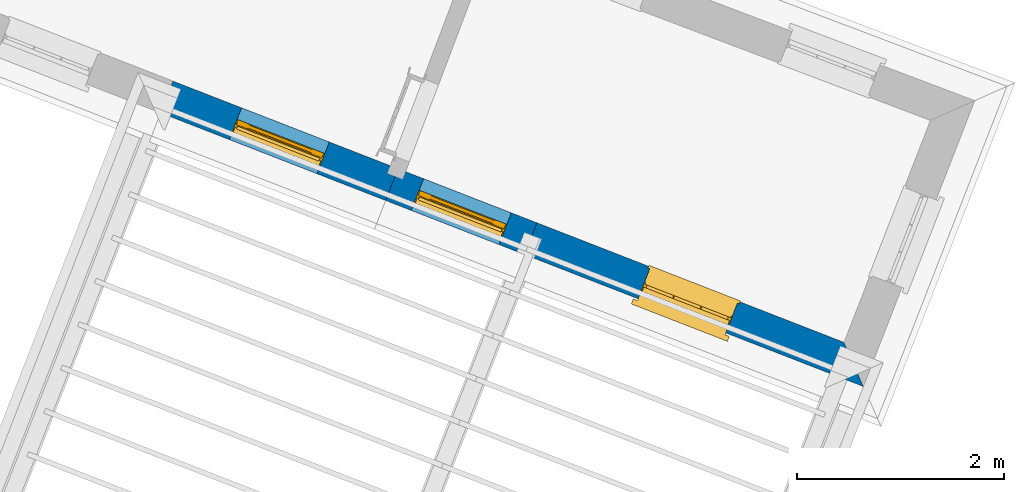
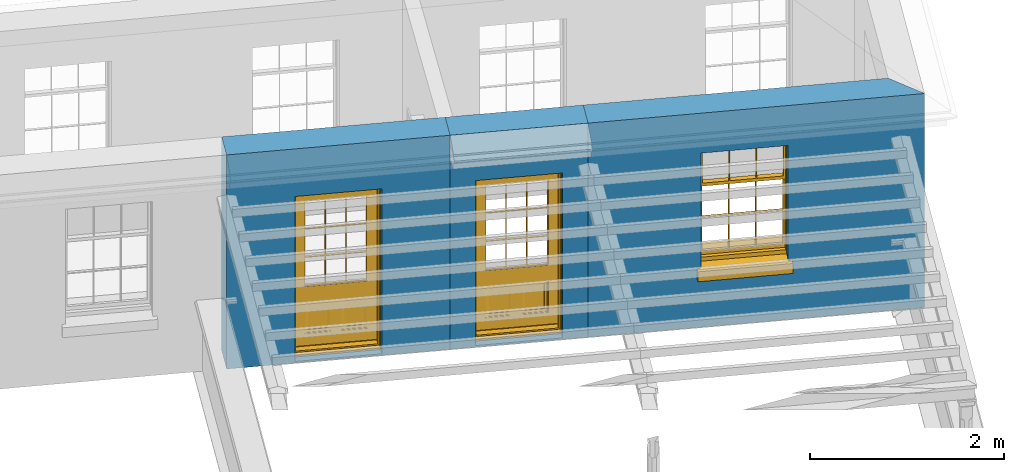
# One storey, part 3 of 5: 3 walls, 2 doors, 1 window, 3 openings.
"""IFC4 building model written with IfcOpenShell, lengths in metres."""

import ifcopenshell
import ifcopenshell.guid

model = None  # the IFC model being written
_history = None  # IfcOwnerHistory: only IFC2X3 demands one
_inside = {}  # id of a spatial element -> (the spatial element, [elements in it])
_under = {}  # id of a project, library or spatial element -> (it, [spatial elements below it])
_declared = {}  # id of a project -> (the project, [libraries it declares])
_typed = {}  # id of a type object -> (the type object, [elements of that type])
_made_of = {}  # id of a material, layer set ... -> (it, [elements and type objects made of it])


def new_model(schema):
    """Start an empty IFC model of exactly this schema.

    Asked for "IFC4X3", IfcOpenShell would pick the latest addendum, in which some entities
    have other attributes; the version numbers below select the first issue.
    IFC2X3 requires an IfcOwnerHistory on every rooted entity: one is made here for all.
    """
    global model, _history
    if schema == "IFC4X3":
        model = ifcopenshell.file(schema_version=(4, 3, 0, 0))
    else:
        model = ifcopenshell.file(schema=schema)
    _inside.clear()
    _under.clear()
    _declared.clear()
    _typed.clear()
    _made_of.clear()
    _history = None
    if model.schema == "IFC2X3":
        org = make("IfcOrganization", Name="unknown")
        user = make(
            "IfcPersonAndOrganization",
            ThePerson=make("IfcPerson", FamilyName="unknown"),
            TheOrganization=org,
        )
        app = make(
            "IfcApplication",
            ApplicationDeveloper=org,
            Version="unknown",
            ApplicationFullName="unknown",
            ApplicationIdentifier="unknown",
        )
        _history = make(
            "IfcOwnerHistory",
            OwningUser=user,
            OwningApplication=app,
            ChangeAction="ADDED",
            CreationDate=0,
        )
    return model


def make(cls, **values):
    """One entity of the class cls with the attributes given. An attribute that is None is left unset."""
    return model.create_entity(
        cls, **{name: value for name, value in values.items() if value is not None}
    )


def rooted(cls, **values):
    """An entity with a GlobalId (a new one), such as an element, a storey or a relation."""
    return make(cls, GlobalId=ifcopenshell.guid.new(), OwnerHistory=_history, **values)


def si_unit(unit_type, name, prefix=None):
    """IfcSIUnit, for example si_unit("LENGTHUNIT", "METRE", prefix="MILLI")."""
    return make("IfcSIUnit", UnitType=unit_type, Prefix=prefix, Name=name)


def assignment(units):
    """IfcUnitAssignment: the units of a project."""
    return None if units is None else make("IfcUnitAssignment", Units=units)


def point(xyz):
    """IfcCartesianPoint."""
    return None if xyz is None else make("IfcCartesianPoint", Coordinates=xyz)


def direction(xyz):
    """IfcDirection."""
    return None if xyz is None else make("IfcDirection", DirectionRatios=xyz)


def frame(location, z_axis=None, x_axis=None):
    """IfcAxis2Placement3D, a coordinate frame: its origin and axes. An axis left out is left unset."""
    return make(
        "IfcAxis2Placement3D",
        Location=point(location),
        Axis=direction(z_axis),
        RefDirection=direction(x_axis),
    )


def origin():
    """The frame at (0, 0, 0) with its axes left unset."""
    return frame((0.0, 0.0, 0.0))


def origin_with_axes():
    """The frame at (0, 0, 0) with the z axis (0, 0, 1) and the x axis (1, 0, 0) written out."""
    return frame((0.0, 0.0, 0.0), z_axis=(0.0, 0.0, 1.0), x_axis=(1.0, 0.0, 0.0))


def place(relative_to, where):
    """IfcLocalPlacement: puts the frame where relative to a parent placement (None: the world)."""
    return make(
        "IfcLocalPlacement", PlacementRelTo=relative_to, RelativePlacement=where
    )


def context(
    kind, dimensions, precision=None, world=None, true_north=None, identifier=None
):
    """IfcGeometricRepresentationContext, for example the 3D "Model" context."""
    return make(
        "IfcGeometricRepresentationContext",
        ContextIdentifier=identifier,
        ContextType=kind,
        CoordinateSpaceDimension=dimensions,
        Precision=precision,
        WorldCoordinateSystem=world,
        TrueNorth=true_north,
    )


def subcontext(parent, identifier, kind, view, scale=None):
    """IfcGeometricRepresentationSubContext, for example "Body" below "Model"."""
    return make(
        "IfcGeometricRepresentationSubContext",
        ContextIdentifier=identifier,
        ContextType=kind,
        ParentContext=parent,
        TargetScale=scale,
        TargetView=view,
    )


def project(units=None, contexts=None):
    """IfcProject with its units and contexts."""
    return rooted(
        "IfcProject",
        Name="project",
        RepresentationContexts=contexts,
        UnitsInContext=assignment(units),
    )


def spatial(cls, under=None, at=None, **own):
    """A site, building, storey or space (cls), placed at a placement, below another one or the project."""
    s = rooted(cls, ObjectPlacement=at, **own)
    if under is not None:
        _under.setdefault(under.id(), (under, []))[1].append(s)
    return s


def polyline(points):
    """IfcPolyline through the points."""
    return make("IfcPolyline", Points=[point(p) for p in points])


def outline(outer, holes=None, kind="AREA"):
    """IfcArbitraryClosedProfileDef: a profile drawn as a closed curve; with holes, ...WithVoids."""
    if holes is None:
        return make("IfcArbitraryClosedProfileDef", ProfileType=kind, OuterCurve=outer)
    return make(
        "IfcArbitraryProfileDefWithVoids",
        ProfileType=kind,
        OuterCurve=outer,
        InnerCurves=holes,
    )


def extrude(swept, where, along, depth):
    """IfcExtrudedAreaSolid: the profile swept, set in the frame where, extruded along a direction by depth."""
    return make(
        "IfcExtrudedAreaSolid",
        SweptArea=swept,
        Position=where,
        ExtrudedDirection=direction(along),
        Depth=depth,
    )


def faces_of(points, faces, orient=None, outer=None):
    """IfcFace entities. A face is a list of loops; a loop is a list of indices into points, from 0.

    orient and outer hold one flag for each loop. By default every Orientation is true, the
    first loop of a face is its IfcFaceOuterBound and the others are IfcFaceBound.
    """
    made = []
    for i, loops in enumerate(faces):
        bounds = []
        for j, loop in enumerate(loops):
            is_outer = j == 0 if outer is None else outer[i][j]
            bounds.append(
                make(
                    "IfcFaceOuterBound" if is_outer else "IfcFaceBound",
                    Bound=make("IfcPolyLoop", Polygon=[points[k] for k in loop]),
                    Orientation=True if orient is None else orient[i][j],
                )
            )
        made.append(make("IfcFace", Bounds=bounds))
    return made


def faceted_brep(points, faces, orient=None, outer=None, voids=None):
    """IfcFacetedBrep: a solid bounded by flat faces; with voids (closed shells), ...WithVoids."""
    shared = [point(p) for p in points]
    hull = make("IfcClosedShell", CfsFaces=faces_of(shared, faces, orient, outer))
    if voids is None:
        return make("IfcFacetedBrep", Outer=hull)
    return make(
        "IfcFacetedBrepWithVoids",
        Outer=hull,
        Voids=[
            make(cls, CfsFaces=faces_of(shared, fs, o, b)) for cls, fs, o, b in voids
        ],
    )


def shape(context_of_items, identifier, shape_type, items):
    """IfcShapeRepresentation: the items that make up one representation, for example the "Body"."""
    return make(
        "IfcShapeRepresentation",
        ContextOfItems=context_of_items,
        RepresentationIdentifier=identifier,
        RepresentationType=shape_type,
        Items=items,
    )


def source(mapping_origin, context_of_items, identifier, shape_type, items):
    """IfcRepresentationMap: a shape defined once, which mapped items show again and again."""
    return make(
        "IfcRepresentationMap",
        MappingOrigin=mapping_origin,
        MappedRepresentation=shape(context_of_items, identifier, shape_type, items),
    )


def transform(
    local_origin,
    x_axis=None,
    y_axis=None,
    z_axis=None,
    scale=None,
    scale2=None,
    scale3=None,
    uniform=True,
):
    """IfcCartesianTransformationOperator3D, or its non-uniform kind. x_axis, y_axis, z_axis: its Axis1, 2, 3."""
    if uniform:
        return make(
            "IfcCartesianTransformationOperator3D",
            Axis1=direction(x_axis),
            Axis2=direction(y_axis),
            LocalOrigin=point(local_origin),
            Scale=scale,
            Axis3=direction(z_axis),
        )
    return make(
        "IfcCartesianTransformationOperator3DnonUniform",
        Axis1=direction(x_axis),
        Axis2=direction(y_axis),
        LocalOrigin=point(local_origin),
        Scale=scale,
        Axis3=direction(z_axis),
        Scale2=scale2,
        Scale3=scale3,
    )


def mapped(mapping_source, mapping_target):
    """IfcMappedItem: shows the shape of a source again, moved by a transform."""
    return make(
        "IfcMappedItem", MappingSource=mapping_source, MappingTarget=mapping_target
    )


def material(Name=None, Category=None):
    """IfcMaterial."""
    return make("IfcMaterial", Name=Name, Category=Category)


def layer(
    of_material, thickness, ventilated=None, Name=None, Category=None, Priority=None
):
    """IfcMaterialLayer: one layer of a wall or slab, of a material (None: an air gap)."""
    return make(
        "IfcMaterialLayer",
        Material=of_material,
        LayerThickness=thickness,
        IsVentilated=ventilated,
        Name=Name,
        Category=Category,
        Priority=Priority,
    )


def layer_set(layers, Name=None):
    """IfcMaterialLayerSet."""
    return make("IfcMaterialLayerSet", MaterialLayers=layers, LayerSetName=Name)


def layer_usage(for_layer_set, set_direction, sense, offset, extent=None):
    """IfcMaterialLayerSetUsage: how a layer set lies in its element."""
    return make(
        "IfcMaterialLayerSetUsage",
        ForLayerSet=for_layer_set,
        LayerSetDirection=set_direction,
        DirectionSense=sense,
        OffsetFromReferenceLine=offset,
        ReferenceExtent=extent,
    )


def made_of(thing, what):
    """Note that an element or type object is made of a material, layer set ...; save() writes the relation."""
    if what is not None:
        _made_of.setdefault(what.id(), (what, []))[1].append(thing)
    return thing


def type_object(cls, material=None, **own):
    """A type object (cls), such as IfcWallType, which elements share."""
    return made_of(rooted(cls, **own), material)


def type_shapes(of_type, sources):
    """Give a type object the sources (RepresentationMaps) that its elements show as mapped items."""
    of_type.RepresentationMaps = sources


def element(
    cls,
    number,
    at=None,
    inside=None,
    cuts=None,
    type_object=None,
    material=None,
    context=None,
    identifier="Body",
    shape_type=None,
    held_by="IfcProductDefinitionShape",
    body=None,
    shapes=None,
    **own,
):
    """One element of the class cls, such as IfcWall. Its Tag is "e" and its number.

    at: its placement. inside: the storey or other place that contains it. cuts: it is an
    opening in that element (IfcRelVoidsElement). A single representation is given by context,
    identifier, shape_type and body (its items); several are given by shapes. held_by: the class
    of the entity that holds the representations. save() writes the other relations.
    """
    e = rooted(cls, Tag="e%d" % number, ObjectPlacement=at, **own)
    if body is not None:
        shapes = [shape(context, identifier, shape_type, body)]
    if shapes is not None:
        e.Representation = make(held_by, Representations=shapes)
    if inside is not None:
        _inside.setdefault(inside.id(), (inside, []))[1].append(e)
    if cuts is not None:
        rooted(
            "IfcRelVoidsElement", RelatingBuildingElement=cuts, RelatedOpeningElement=e
        )
    if type_object is not None:
        _typed.setdefault(type_object.id(), (type_object, []))[1].append(e)
    return made_of(e, material)


def fill(opening, filler):
    """IfcRelFillsElement: the door or window that sits in an opening."""
    return rooted(
        "IfcRelFillsElement",
        RelatingOpeningElement=opening,
        RelatedBuildingElement=filler,
    )


def aggregate(whole, parts):
    """IfcRelAggregates: a whole, such as a stair, and the parts it consists of."""
    return rooted("IfcRelAggregates", RelatingObject=whole, RelatedObjects=parts)


def save(model, path):
    """Write the relations noted so far, then the file.

    IfcRelAggregates (storeys below a building ...), IfcRelContainedInSpatialStructure (elements
    in a storey), IfcRelDefinesByType, IfcRelAssociatesMaterial and IfcRelDeclares: one each for
    every whole, place, type object, material and project.
    """
    for whole, parts in _under.values():
        aggregate(whole, parts)
    for where, things in _inside.values():
        rooted(
            "IfcRelContainedInSpatialStructure",
            RelatedElements=things,
            RelatingStructure=where,
        )
    for kind, things in _typed.values():
        rooted("IfcRelDefinesByType", RelatedObjects=things, RelatingType=kind)
    for what, things in _made_of.values():
        rooted("IfcRelAssociatesMaterial", RelatedObjects=things, RelatingMaterial=what)
    for by, libraries in _declared.values():
        rooted("IfcRelDeclares", RelatingContext=by, RelatedDefinitions=libraries)
    model.write(path)


model = new_model("IFC4")

# Units and contexts
model_context = context("Model", 3, world=origin_with_axes())
body_context = subcontext(model_context, "Body", "Model", "MODEL_VIEW")
ifc_project = project(units=[si_unit("PLANEANGLEUNIT", "RADIAN"), si_unit("MASSUNIT", "GRAM", prefix="KILO"), si_unit("FORCEUNIT", "NEWTON", prefix="KILO"), si_unit("LENGTHUNIT", "METRE"), si_unit("AREAUNIT", "SQUARE_METRE"), si_unit("VOLUMEUNIT", "CUBIC_METRE")], contexts=[model_context, model_context])

# Sites, building, storey
site_1_placement = place(None, origin_with_axes())
site_1 = spatial("IfcSite", under=ifc_project, at=site_1_placement, Name="Tamar")
site_2_placement = place(site_1_placement, origin_with_axes())
site_2 = spatial("IfcSite", under=site_1, at=site_2_placement, Name="Site plot-8", CompositionType="ELEMENT")
building_placement = place(None, origin_with_axes())
building = spatial("IfcBuilding", under=site_2, at=building_placement, Name="Building plot-8", CompositionType="ELEMENT")
storey_placement = place(None, frame((0.0, 0.0, 31.55), z_axis=(0.0, 0.0, 1.0), x_axis=(1.0, 0.0, 0.0)))
storey = spatial("IfcBuildingStorey", under=building, at=storey_placement, Name="plot-8 2", CompositionType="ELEMENT", Elevation=31.55)

# Wall, opening, door
ifc_material = material(Name="Masonry")
ifc_layer = layer(ifc_material, 0.33, ventilated=False)
ifc_layer_set = layer_set([ifc_layer], Name="exterior_0.08_0.25")
ifc_layer_usage = layer_usage(ifc_layer_set, "AXIS2", "POSITIVE", -0.25)
wall_type = type_object("IfcWallType", Name="exterior_0.08_0.25", PredefinedType="SOLIDWALL", material=ifc_layer_set)
wall_1_placement = place(storey_placement, frame((223.979982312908, 309.32457709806, 0.0), z_axis=(0.0, 0.0, 1.0), x_axis=(0.931863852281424, -0.362808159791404, 0.0)))
wall_1 = element("IfcWall", 1, at=wall_1_placement, inside=storey, type_object=wall_type, material=ifc_layer_usage, Name="exterior", context=body_context, shape_type="SweptSolid", body=[
    extrude(outline(polyline([(2.24758126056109e-14, 0.0800000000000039), (-7.68733575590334e-14, -0.250000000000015), (2.3357407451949, -0.249999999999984), (2.3357407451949, 0.0799999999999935), (2.24758126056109e-14, 0.0800000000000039)])), origin_with_axes(), (0.0, 0.0, 1.0), 2.7),
])
opening_1_placement = place(wall_1_placement, frame((0.712870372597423, 0.0, 0.0199999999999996)))
opening_1 = element("IfcOpeningElement", 2, at=opening_1_placement, cuts=wall_1, Name="My Opening", ObjectType="Opening", context=body_context, shape_type="SweptSolid", body=[
    extrude(outline(polyline([(0.0, -0.269999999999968), (0.910000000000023, -0.270000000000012), (0.910000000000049, 1.09999999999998), (2.67563748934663e-14, 1.10000000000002), (0.0, -0.269999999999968)])), origin_with_axes(), (0.0, 0.0, 1.0), 2.08),
])
door_type = type_object("IfcDoorType", Name="door_panelled", OperationType="SINGLE_SWING_LEFT", PredefinedType="NOTDEFINED")
shared_shape_1 = source(origin(), body_context, "Body", "Brep", [
    faceted_brep([(0.545, 0.195, 0.265), (0.745, 0.195, 0.265), (0.745, 0.2, 0.265), (0.545, 0.2, 0.265), (0.745, 0.2, 0.58), (0.545, 0.2, 0.58), (0.545, 0.195, 0.58), (0.515, 0.19, 0.235), (0.775, 0.19, 0.235), (0.745, 0.195, 0.58), (0.515, 0.19, 0.61), (0.515, 0.185, 0.235), (0.775, 0.185, 0.235), (0.775, 0.19, 0.61), (0.515, 0.185, 0.61), (0.785, 0.185, 0.225), (0.505, 0.185, 0.225), (0.775, 0.185, 0.61), (0.505, 0.185, 0.62), (0.785, 0.185, 0.62), (0.505, 0.18, 0.225), (0.785, 0.18, 0.225), (0.505, 0.18, 0.62), (0.785, 0.18, 0.62), (0.883, 0.18, 0.075), (0.898, 0.18, 0.075), (0.405, 0.18, 0.62), (0.405, 0.18, 0.225), (0.027, 0.18, 0.075), (0.785, 0.18, 0.82), (0.125, 0.18, 0.82), (0.405, 0.185, 0.62), (0.405, 0.185, 0.225), (0.898, 0.18, 2.068), (0.027, 0.17, 0.075), (0.883, 0.17, 0.075), (0.125, 0.18, 0.225), (0.012, 0.18, 0.075), (0.785, 0.19, 0.82), (0.125, 0.19, 0.82), (0.125, 0.18, 0.62), (0.125, 0.185, 0.62), (0.395, 0.185, 0.61), (0.395, 0.185, 0.235), (0.125, 0.185, 0.225), (0.785, 0.18, 1.895), (0.027, 0.14, 0.045), (0.883, 0.14, 0.045), (0.558333, 0.19, 0.83), (0.351667, 0.19, 0.83), (0.125, 0.18, 1.895), (0.125, 0.19, 1.895), (0.785, 0.19, 1.895), (0.012, 0.18, 2.068), (0.135, 0.185, 0.61), (0.395, 0.19, 0.61), (0.395, 0.19, 0.235), (0.135, 0.185, 0.235), (0.027, 0.14, 0.027), (0.883, 0.14, 0.027), (0.568333, 0.19, 0.83), (0.558333, 0.22, 0.83), (0.351667, 0.22, 0.83), (0.341667, 0.19, 0.83), (0.135, 0.19, 1.185), (0.135, 0.19, 1.53), (0.775, 0.19, 1.53), (0.775, 0.19, 1.185), (0.135, 0.19, 0.61), (0.365, 0.195, 0.58), (0.365, 0.195, 0.265), (0.135, 0.19, 0.235), (0.568333, 0.19, 1.175), (0.558333, 0.19, 1.175), (0.775, 0.19, 0.83), (0.558333, 0.22, 1.175), (0.785, 0.22, 0.82), (0.125, 0.22, 0.82), (0.351667, 0.22, 1.175), (0.351667, 0.19, 1.175), (0.341667, 0.19, 1.175), (0.135, 0.19, 0.83), (0.135, 0.19, 1.175), (0.135, 0.22, 1.185), (0.135, 0.22, 1.53), (0.135, 0.19, 1.54), (0.351667, 0.19, 1.885), (0.558333, 0.19, 1.885), (0.775, 0.22, 1.53), (0.775, 0.22, 1.185), (0.775, 0.19, 1.175), (0.775, 0.19, 1.54), (0.165, 0.195, 0.58), (0.365, 0.2, 0.58), (0.365, 0.2, 0.265), (0.165, 0.195, 0.265), (0.568333, 0.22, 0.83), (0.568333, 0.22, 1.175), (0.568333, 0.19, 1.185), (0.558333, 0.19, 1.185), (0.775, 0.22, 0.83), (0.785, 0.23, 0.82), (0.125, 0.23, 0.82), (0.341667, 0.22, 0.83), (0.341667, 0.22, 1.175), (0.351667, 0.19, 1.185), (0.341667, 0.19, 1.185), (0.135, 0.22, 0.83), (0.341667, 0.22, 1.185), (0.125, 0.22, 1.895), (0.341667, 0.22, 1.53), (0.341667, 0.19, 1.53), (0.135, 0.19, 1.885), (0.341667, 0.19, 1.54), (0.341667, 0.19, 1.885), (0.558333, 0.22, 1.885), (0.351667, 0.22, 1.885), (0.568333, 0.19, 1.885), (0.785, 0.22, 1.895), (0.568333, 0.22, 1.185), (0.568333, 0.19, 1.53), (0.568333, 0.22, 1.53), (0.568333, 0.19, 1.54), (0.775, 0.19, 1.885), (0.165, 0.2, 0.58), (0.165, 0.2, 0.265), (0.775, 0.22, 1.175), (0.558333, 0.19, 1.53), (0.351667, 0.22, 1.185), (0.558333, 0.22, 1.185), (0.505, 0.23, 0.62), (0.405, 0.23, 0.62), (0.125, 0.23, 1.895), (0.785, 0.23, 1.895), (0.351667, 0.19, 1.53), (0.135, 0.22, 1.175), (0.135, 0.22, 1.54), (0.341667, 0.22, 1.54), (0.135, 0.22, 1.885), (0.351667, 0.19, 1.54), (0.558333, 0.22, 1.54), (0.558333, 0.19, 1.54), (0.351667, 0.22, 1.54), (0.775, 0.22, 1.54), (0.568333, 0.22, 1.54), (0.775, 0.22, 1.885), (0.558333, 0.22, 1.53), (0.405, 0.23, 0.225), (0.505, 0.23, 0.225), (0.125, 0.23, 0.62), (0.785, 0.23, 0.62), (0.012, 0.23, 2.068), (0.898, 0.23, 2.068), (0.351667, 0.22, 1.53), (0.341667, 0.22, 1.885), (0.568333, 0.22, 1.885), (0.405, 0.225, 0.225), (0.405, 0.225, 0.62), (0.505, 0.225, 0.62), (0.505, 0.225, 0.225), (0.898, 0.23, 0.027), (0.012, 0.23, 0.027), (0.125, 0.225, 0.62), (0.785, 0.225, 0.62), (0.395, 0.225, 0.235), (0.395, 0.225, 0.61), (0.125, 0.23, 0.225), (0.125, 0.225, 0.225), (0.515, 0.225, 0.61), (0.515, 0.225, 0.235), (0.785, 0.23, 0.225), (0.785, 0.225, 0.225), (0.135, 0.225, 0.61), (0.775, 0.225, 0.61), (0.135, 0.225, 0.235), (0.395, 0.22, 0.235), (0.395, 0.22, 0.61), (0.515, 0.22, 0.61), (0.515, 0.22, 0.235), (0.775, 0.225, 0.235), (0.135, 0.22, 0.61), (0.775, 0.22, 0.61), (0.135, 0.22, 0.235), (0.365, 0.215, 0.265), (0.365, 0.215, 0.58), (0.545, 0.215, 0.58), (0.545, 0.215, 0.265), (0.775, 0.22, 0.235), (0.165, 0.215, 0.58), (0.745, 0.215, 0.58), (0.165, 0.215, 0.265), (0.365, 0.21, 0.58), (0.365, 0.21, 0.265), (0.545, 0.21, 0.58), (0.545, 0.21, 0.265), (0.745, 0.215, 0.265), (0.165, 0.21, 0.58), (0.745, 0.21, 0.58), (0.165, 0.21, 0.265), (0.745, 0.21, 0.265), (0.885, 0.178, 0.025), (0.025, 0.178, 0.025), (0.025, 0.15, 0.025), (0.885, 0.15, 0.025), (0.9, 0.23, 0.025), (0.01, 0.23, 0.025), (0.9, 0.178, 0.025), (0.91, 0.23, 0.0), (0.0, 0.23, 0.0), (0.01, 0.178, 0.025), (0.9, 0.178, 2.07), (0.9, 0.23, 2.07), (0.885, 0.178, 2.055), (0.91, 0.23, 2.08), (0.01, 0.23, 2.07), (0.0, 0.23, 2.08), (0.01, 0.178, 2.07), (0.025, 0.178, 2.055), (0.0, 0.1, 2.08), (0.91, 0.1, 2.08), (0.01, 0.1, 2.07), (0.9, 0.1, 2.07), (0.01, 0.15, 2.07), (0.9, 0.15, 2.07), (0.0, 0.1, 0.0), (0.91, 0.1, 0.0), (0.01, 0.1, 0.025), (0.9, 0.1, 0.025), (0.01, 0.15, 0.025), (0.025, 0.15, 2.055), (0.9, 0.15, 0.025), (0.885, 0.15, 2.055), (0.898, 0.18, 0.027), (0.012, 0.18, 0.027), (0.883, 0.18, 0.027), (0.027, 0.18, 0.027)], [[[0, 1, 2, 3]], [[2, 4, 5, 3]], [[0, 3, 5, 6]], [[1, 0, 7, 8]], [[9, 4, 2, 1]], [[9, 6, 5, 4]], [[0, 6, 10, 7]], [[8, 7, 11, 12]], [[8, 13, 9, 1]], [[13, 10, 6, 9]], [[7, 10, 14, 11]], [[15, 12, 11, 16]], [[12, 17, 13, 8]], [[17, 14, 10, 13]], [[18, 16, 11, 14]], [[15, 19, 17, 12]], [[15, 16, 20, 21]], [[14, 17, 19, 18]], [[16, 18, 22, 20]], [[21, 23, 19, 15]], [[24, 25, 21, 20]], [[23, 22, 18, 19]], [[20, 22, 26, 27]], [[23, 21, 25]], [[28, 24, 20, 27]], [[22, 23, 29]], [[29, 30, 26, 22]], [[27, 26, 31, 32]], [[23, 25, 33, 29]], [[34, 35, 24, 28]], [[28, 27, 36, 37]], [[38, 39, 30, 29]], [[26, 30, 40]], [[26, 40, 41, 31]], [[42, 43, 32, 31]], [[32, 44, 36, 27]], [[33, 45, 29]], [[46, 47, 35, 34]], [[36, 40, 37]], [[39, 38, 48, 49]], [[50, 30, 39, 51]], [[29, 45, 52, 38]], [[53, 37, 40, 30]], [[44, 41, 40, 36]], [[31, 41, 54, 42]], [[43, 42, 55, 56]], [[57, 44, 32, 43]], [[50, 45, 33, 53]], [[47, 46, 58, 59]], [[60, 48, 38]], [[49, 48, 61, 62]], [[49, 63, 39]], [[50, 53, 30]], [[51, 39, 64, 65]], [[45, 50, 51, 52]], [[66, 67, 38, 52]], [[57, 54, 41, 44]], [[42, 54, 68, 55]], [[56, 55, 69, 70]], [[56, 71, 57, 43]], [[60, 72, 73, 48]], [[60, 38, 74]], [[48, 73, 75, 61]], [[76, 77, 62, 61]], [[62, 78, 79, 49]], [[49, 79, 80, 63]], [[63, 81, 39]], [[82, 64, 39]], [[65, 64, 83, 84]], [[85, 51, 65]], [[52, 51, 86, 87]], [[88, 89, 67, 66]], [[90, 38, 67]], [[91, 66, 52]], [[71, 68, 54, 57]], [[55, 68, 92, 69]], [[69, 93, 94, 70]], [[70, 95, 71, 56]], [[96, 97, 72, 60]], [[73, 72, 98, 99]], [[74, 38, 90]], [[100, 96, 60, 74]], [[75, 73, 79, 78]], [[61, 75, 97, 96]], [[101, 102, 77, 76]], [[77, 103, 62]], [[96, 76, 61]], [[103, 104, 78, 62]], [[80, 79, 105, 106]], [[63, 80, 104, 103]], [[81, 63, 103, 107]], [[81, 82, 39]], [[106, 64, 82, 80]], [[106, 108, 83, 64]], [[84, 83, 77, 109]], [[110, 111, 65, 84]], [[112, 51, 85]], [[113, 85, 65, 111]], [[114, 86, 51]], [[115, 87, 86, 116]], [[117, 52, 87]], [[118, 76, 89, 88]], [[119, 98, 67, 89]], [[120, 121, 88, 66]], [[67, 98, 72, 90]], [[91, 122, 120, 66]], [[91, 52, 123]], [[95, 92, 68, 71]], [[69, 92, 124, 93]], [[94, 93, 124, 125]], [[94, 125, 95, 70]], [[72, 97, 126, 90]], [[127, 99, 98, 120]], [[99, 105, 79, 73]], [[74, 90, 126, 100]], [[96, 100, 76]], [[128, 129, 75, 78]], [[97, 75, 129, 119]], [[130, 131, 102, 101]], [[109, 77, 102, 132]], [[133, 101, 76, 118]], [[77, 107, 103]], [[78, 104, 108, 128]], [[111, 106, 105, 134]], [[104, 80, 82, 135]], [[107, 135, 82, 81]], [[110, 108, 106, 111]], [[104, 135, 83, 108]], [[83, 135, 77]], [[136, 84, 109]], [[110, 84, 136, 137]], [[114, 51, 112]], [[85, 136, 138, 112]], [[113, 137, 136, 85]], [[111, 134, 139, 113]], [[86, 114, 113, 139]], [[140, 141, 87, 115]], [[139, 142, 116, 86]], [[109, 118, 115, 116]], [[117, 123, 52]], [[117, 87, 141, 122]], [[126, 89, 76]], [[143, 118, 88]], [[120, 98, 119, 121]], [[119, 89, 126, 97]], [[144, 143, 88, 121]], [[144, 122, 91, 143]], [[127, 120, 122, 141]], [[143, 91, 123, 145]], [[124, 92, 95, 125]], [[146, 129, 99, 127]], [[99, 129, 128, 105]], [[100, 126, 76]], [[121, 119, 129, 146]], [[147, 131, 130, 148]], [[131, 149, 102]], [[130, 101, 150]], [[102, 151, 132]], [[118, 109, 132, 133]], [[101, 133, 152]], [[107, 77, 135]], [[153, 128, 108, 110]], [[134, 105, 128, 153]], [[109, 138, 136]], [[153, 110, 137, 142]], [[154, 114, 112, 138]], [[137, 113, 114, 154]], [[141, 139, 134, 127]], [[141, 140, 142, 139]], [[144, 140, 115, 155]], [[142, 137, 154, 116]], [[155, 115, 118]], [[116, 154, 109]], [[117, 155, 145, 123]], [[122, 144, 155, 117]], [[143, 145, 118]], [[121, 146, 140, 144]], [[146, 127, 134, 153]], [[156, 157, 131, 147]], [[148, 130, 158, 159]], [[148, 160, 161, 147]], [[157, 162, 149, 131]], [[161, 151, 102, 149]], [[101, 152, 160, 150]], [[163, 158, 130, 150]], [[151, 152, 133, 132]], [[154, 138, 109]], [[142, 140, 146, 153]], [[145, 155, 118]], [[157, 156, 164, 165]], [[147, 166, 167, 156]], [[168, 169, 159, 158]], [[170, 148, 159, 171]], [[148, 170, 160]], [[166, 147, 161]], [[172, 162, 157, 165]], [[166, 149, 162, 167]], [[166, 161, 149]], [[150, 160, 170]], [[163, 173, 168, 158]], [[171, 163, 150, 170]], [[174, 164, 156, 167]], [[175, 176, 165, 164]], [[169, 168, 177, 178]], [[171, 159, 169, 179]], [[167, 162, 172, 174]], [[176, 180, 172, 165]], [[179, 173, 163, 171]], [[181, 177, 168, 173]], [[164, 174, 182, 175]], [[183, 184, 176, 175]], [[178, 177, 185, 186]], [[179, 169, 178, 187]], [[174, 172, 180, 182]], [[184, 188, 180, 176]], [[187, 181, 173, 179]], [[189, 185, 177, 181]], [[175, 182, 190, 183]], [[191, 184, 183, 192]], [[185, 193, 194, 186]], [[187, 178, 186, 195]], [[182, 180, 188, 190]], [[191, 196, 188, 184]], [[195, 189, 181, 187]], [[197, 193, 185, 189]], [[183, 190, 198, 192]], [[198, 196, 191, 192]], [[194, 193, 197, 199]], [[195, 186, 194, 199]], [[188, 196, 198, 190]], [[197, 189, 195, 199]], [[200, 201, 202, 203]], [[201, 200, 204, 205]], [[206, 204, 200]], [[204, 207, 208, 205]], [[209, 201, 205]], [[210, 211, 204, 206]], [[206, 200, 212, 210]], [[211, 213, 207, 204]], [[214, 205, 208, 215]], [[216, 217, 201, 209]], [[205, 214, 216, 209]], [[216, 214, 211, 210]], [[210, 212, 217, 216]], [[214, 215, 213, 211]], [[218, 219, 213, 215]], [[219, 218, 220, 221]], [[221, 220, 222, 223]], [[215, 208, 224, 218]], [[225, 224, 208, 207]], [[224, 226, 220, 218]], [[224, 225, 227, 226]], [[219, 225, 207, 213]], [[228, 222, 220, 226]], [[219, 221, 227, 225]], [[226, 227, 203, 202]], [[202, 229, 222, 228]], [[228, 226, 202]], [[227, 221, 223, 230]], [[230, 203, 227]], [[217, 229, 202, 201]], [[231, 223, 222, 229]], [[230, 223, 231, 203]], [[231, 229, 217, 212]], [[212, 200, 203, 231]], [[33, 152, 151, 53]], [[25, 160, 152, 33]], [[161, 37, 53, 151]], [[232, 160, 25]], [[161, 233, 37]], [[160, 232, 234]], [[24, 234, 232, 25]], [[233, 161, 235]], [[37, 233, 235, 28]], [[161, 160, 234, 235]], [[35, 47, 234, 24]], [[28, 235, 46, 34]], [[58, 235, 234, 59]], [[59, 234, 47]], [[58, 46, 235]]]),
])
type_shapes(door_type, [shared_shape_1])
door_1_placement = place(storey_placement, frame((224.54632224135, 308.814338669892, 0.0199999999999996), z_axis=(0.0, 0.0, 1.0), x_axis=(0.847996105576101, -0.330155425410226, 0.0)))
door_1 = element("IfcDoor", 3, at=door_1_placement, inside=storey, type_object=door_type, Name="bedroom outside door", OverallHeight=2.08, OverallWidth=0.91, context=body_context, shape_type="MappedRepresentation", body=[
    mapped(shared_shape_1, transform((0.0, 0.0, 0.0), scale=1.0)),
])
fill(opening_1, door_1)

wall_2_placement = place(storey_placement, frame((226.156574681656, 308.477151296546, 0.0), z_axis=(0.0, 0.0, 1.0), x_axis=(0.931863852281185, -0.362808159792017, 0.0)))
wall_2 = element("IfcWall", 4, at=wall_2_placement, inside=storey, type_object=wall_type, material=ifc_layer_usage, Name="exterior", context=body_context, shape_type="SweptSolid", body=[
    extrude(outline(polyline([(-5.66786481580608e-14, 0.0799999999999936), (1.6715366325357e-13, -0.249999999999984), (1.44228726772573, -0.249999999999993), (1.44228726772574, 0.0800000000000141), (-5.66786481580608e-14, 0.0799999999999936)])), origin_with_axes(), (0.0, 0.0, 1.0), 2.7),
])
opening_2_placement = place(wall_2_placement, frame((0.266143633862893, 0.0, 0.0199999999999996)))
opening_2 = element("IfcOpeningElement", 5, at=opening_2_placement, cuts=wall_2, Name="My Opening", ObjectType="Opening", context=body_context, shape_type="SweptSolid", body=[
    extrude(outline(polyline([(0.0, -0.270000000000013), (0.909999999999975, -0.269999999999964), (0.909999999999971, 1.10000000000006), (-4.05231403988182e-15, 1.10000000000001), (0.0, -0.270000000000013)])), origin_with_axes(), (0.0, 0.0, 1.0), 2.08),
])
door_2_placement = place(storey_placement, frame((226.306626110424, 308.128988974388, 0.0199999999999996), z_axis=(0.0, 0.0, 1.0), x_axis=(0.847996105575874, -0.33015542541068, 0.0)))
door_2 = element("IfcDoor", 6, at=door_2_placement, inside=storey, type_object=door_type, Name="circulation outside door", OverallHeight=2.08, OverallWidth=0.91, context=body_context, shape_type="MappedRepresentation", body=[
    mapped(shared_shape_1, transform((0.0, 0.0, 0.0), scale=1.0)),
])
fill(opening_2, door_2)

# Wall, opening, window
wall_3_placement = place(storey_placement, frame((227.500590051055, 307.953877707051, 0.0), z_axis=(0.0, 0.0, 1.0), x_axis=(0.931863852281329, -0.362808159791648, 0.0)))
wall_3 = element("IfcWall", 7, at=wall_3_placement, inside=storey, type_object=wall_type, material=ifc_layer_usage, Name="exterior", context=body_context, shape_type="SweptSolid", body=[
    extrude(outline(polyline([(2.79825188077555e-14, 0.0800000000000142), (-1.1151231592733e-13, -0.249999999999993), (3.51698581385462, -0.250000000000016), (3.18698581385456, 0.079999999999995), (2.79825188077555e-14, 0.0800000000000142)])), origin_with_axes(), (0.0, 0.0, 1.0), 2.7),
])
opening_3_placement = place(wall_3_placement, frame((1.17849290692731, 0.0, 0.749999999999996)))
opening_3 = element("IfcOpeningElement", 8, at=opening_3_placement, cuts=wall_3, Name="My Opening", ObjectType="Opening", context=body_context, shape_type="SweptSolid", body=[
    extrude(outline(polyline([(0.0, -0.270000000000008), (0.909999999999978, -0.270000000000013), (0.909999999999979, 1.09999999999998), (2.22044604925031e-16, 1.09999999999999), (0.0, -0.270000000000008)])), origin_with_axes(), (0.0, 0.0, 1.0), 1.445),
])
window_type = type_object("IfcWindowType", Name="sash_shorter", PartitioningType="DOUBLE_PANEL_HORIZONTAL", PredefinedType="NOTDEFINED")
shared_shape_2 = source(origin(), body_context, "Body", "Brep", [
    faceted_brep([(0.876875, 0.145, 0.999097), (0.876875, 0.145, 1.411875), (0.9, 0.145, 1.435), (0.033125, 0.145, 1.411875), (0.033125, 0.145, 0.999097), (0.01, 0.145, 1.435), (0.033125, 0.115, 1.411875), (0.01, 0.115, 1.435), (0.033125, 0.115, 0.999097), (0.876875, 0.115, 1.411875), (0.876875, 0.115, 0.999097), (0.9, 0.115, 1.435), (0.033125, 0.145, 0.960972), (0.01, 0.145, 0.960972), (0.033125, 0.145, 0.548195), (0.876875, 0.145, 0.960972), (0.876875, 0.145, 0.548195), (0.9, 0.145, 0.960972), (0.876875, 0.145, 0.538195), (0.876875, 0.145, 0.125417), (0.9, 0.145, 0.077167), (0.033125, 0.145, 0.125417), (0.033125, 0.145, 0.538195), (0.01, 0.145, 0.077167), (0.9, 0.115, 0.960972), (0.01, 0.115, 0.960972), (-0.0425, 0.0, 0.01), (-0.0425, -0.05, 0.001667), (0.0, 0.0, 0.01), (0.9525, 0.0, 0.01), (0.91, 0.0, 0.01), (0.9525, -0.05, 0.001667), (-0.02, 0.33, 0.077167), (0.0, 0.33, 0.077167), (-0.02, 0.36, 0.077167), (0.0, 0.19, 0.077167), (0.01, 0.19, 0.077167), (0.91, 0.19, 0.077167), (0.91, 0.33, 0.077167), (0.9, 0.19, 0.077167), (0.93, 0.33, 0.077167), (0.93, 0.36, 0.077167), (0.01, 0.145, 0.999097), (0.01, 0.175, 0.999097), (0.9, 0.145, 0.999097), (0.9, 0.175, 0.999097), (0.876875, 0.175, 0.125417), (0.876875, 0.175, 0.538195), (0.9, 0.175, 0.077167), (0.876875, 0.175, 0.548195), (0.876875, 0.175, 0.960972), (0.033125, 0.175, 0.125417), (0.01, 0.175, 0.077167), (0.033125, 0.175, 0.538195), (0.033125, 0.175, 0.960972), (0.033125, 0.175, 0.548195), (-0.02, 0.33, 0.052167), (-0.02, 0.36, 0.052167), (0.93, 0.36, 0.052167), (0.93, 0.33, 0.052167), (0.91, 0.33, 0.052167), (0.0, 0.33, 0.052167), (0.91, 0.1, 0.026667), (0.0, 0.1, 0.026667), (-0.0425, -0.05, -0.123333), (0.9525, -0.05, -0.123333), (-0.0425, 0.0, -0.123333), (0.9525, 0.0, -0.123333), (0.01, 0.19, 1.435), (0.9, 0.19, 1.435), (0.0, 0.19, 1.445), (0.91, 0.19, 1.445), (0.01, 0.1, 0.077167), (0.9, 0.1, 0.077167), (0.592292, 0.145, 0.125417), (0.592292, 0.175, 0.125417), (0.317708, 0.175, 0.125417), (0.317708, 0.145, 0.125417), (0.592292, 0.145, 0.548195), (0.317708, 0.145, 0.548195), (0.317708, 0.145, 0.538195), (0.592292, 0.145, 0.538195), (0.592292, 0.175, 0.548195), (0.317708, 0.175, 0.548195), (0.602292, 0.175, 0.548195), (0.602292, 0.145, 0.548195), (0.317708, 0.175, 0.538195), (0.307708, 0.175, 0.125417), (0.307708, 0.175, 0.538195), (0.602292, 0.175, 0.538195), (0.602292, 0.175, 0.125417), (0.592292, 0.175, 0.538195), (0.307708, 0.175, 0.548195), (0.317708, 0.175, 0.960972), (0.307708, 0.175, 0.960972), (0.602292, 0.175, 0.960972), (0.592292, 0.175, 0.960972), (0.307708, 0.145, 0.538195), (0.307708, 0.145, 0.125417), (0.307708, 0.145, 0.548195), (0.307708, 0.145, 0.960972), (0.592292, 0.145, 0.960972), (0.317708, 0.145, 0.960972), (0.602292, 0.145, 0.960972), (0.602292, 0.145, 0.538195), (0.602292, 0.145, 0.125417), (0.317708, 0.115, 1.411875), (0.307708, 0.115, 1.411875), (0.307708, 0.115, 0.999097), (0.317708, 0.115, 0.999097), (0.602292, 0.115, 1.411875), (0.592292, 0.115, 1.411875), (0.592292, 0.115, 0.999097), (0.602292, 0.115, 0.999097), (0.317708, 0.145, 0.999097), (0.307708, 0.145, 0.999097), (0.307708, 0.145, 1.411875), (0.317708, 0.145, 1.411875), (0.602292, 0.145, 0.999097), (0.592292, 0.145, 0.999097), (0.592292, 0.145, 1.411875), (0.602292, 0.145, 1.411875), (0.91, 0.1, 1.445), (0.9, 0.1, 1.435), (0.01, 0.1, 1.435), (0.0, 0.1, 1.445), (0.91, 0.0, 0.0), (0.0, 0.0, 0.0), (0.91, 0.33, 0.0), (0.0, 0.33, 0.0)], [[[0, 1, 2]], [[3, 4, 5]], [[6, 7, 8]], [[9, 10, 11]], [[12, 13, 14]], [[15, 16, 17]], [[18, 19, 20]], [[21, 22, 23]], [[24, 15, 17]], [[13, 12, 25]], [[26, 27, 28]], [[29, 30, 31]], [[32, 33, 34]], [[35, 36, 33]], [[37, 38, 39]], [[40, 41, 38]], [[42, 4, 43]], [[44, 45, 0]], [[46, 47, 48]], [[49, 50, 45]], [[51, 52, 53]], [[54, 55, 43]], [[38, 33, 36, 39]], [[41, 34, 33, 38]], [[56, 32, 34, 57]], [[57, 34, 41, 58]], [[58, 41, 40, 59]], [[57, 58, 60, 61]], [[52, 48, 39, 36]], [[62, 63, 28, 30]], [[27, 31, 30, 28]], [[27, 64, 65, 31]], [[66, 67, 65, 64]], [[2, 5, 68, 69]], [[68, 70, 71, 69]], [[20, 23, 72, 73]], [[73, 72, 63, 62]], [[74, 75, 76, 77]], [[78, 79, 80, 81]], [[78, 82, 83, 79]], [[16, 49, 84, 85]], [[86, 76, 87, 88]], [[89, 90, 75, 91]], [[92, 88, 53, 55]], [[82, 91, 86, 83]], [[93, 83, 92, 94]], [[95, 84, 82, 96]], [[89, 84, 49, 47]], [[97, 88, 87, 98]], [[22, 53, 88, 97]], [[81, 91, 75, 74]], [[80, 86, 91, 81]], [[77, 76, 86, 80]], [[99, 92, 55, 14]], [[100, 94, 92, 99]], [[101, 96, 82, 78]], [[79, 83, 93, 102]], [[85, 84, 95, 103]], [[104, 89, 47, 18]], [[105, 90, 89, 104]], [[104, 18, 16, 85]], [[80, 97, 98, 77]], [[104, 81, 74, 105]], [[103, 101, 78, 85]], [[99, 14, 22, 97]], [[102, 100, 99, 79]], [[106, 107, 108, 109]], [[110, 111, 112, 113]], [[114, 115, 116, 117]], [[118, 119, 120, 121]], [[107, 116, 115, 108]], [[111, 120, 119, 112]], [[109, 114, 117, 106]], [[113, 118, 121, 110]], [[85, 78, 81, 104]], [[84, 89, 91, 82]], [[83, 86, 88, 92]], [[79, 99, 97, 80]], [[109, 112, 119, 114]], [[102, 93, 96, 101]], [[106, 117, 120, 111]], [[98, 87, 51, 21]], [[6, 3, 116, 107]], [[110, 121, 1, 9]], [[19, 46, 90, 105]], [[26, 66, 64, 27]], [[29, 31, 65, 67]], [[25, 24, 112, 109]], [[11, 7, 106, 111]], [[75, 48, 52, 76]], [[43, 45, 96, 93]], [[45, 43, 114, 119]], [[5, 2, 120, 117]], [[24, 25, 102, 101]], [[42, 5, 4]], [[2, 44, 0]], [[49, 45, 48, 47]], [[52, 43, 55, 53]], [[14, 13, 23, 22]], [[20, 17, 16, 18]], [[24, 11, 10]], [[25, 8, 7]], [[8, 4, 3, 6]], [[9, 1, 0, 10]], [[15, 50, 49, 16]], [[18, 47, 46, 19]], [[21, 51, 53, 22]], [[14, 55, 54, 12]], [[44, 2, 69, 45]], [[68, 5, 42, 43]], [[36, 35, 70, 68]], [[39, 69, 71, 37]], [[62, 122, 123, 73]], [[63, 72, 124, 125]], [[8, 108, 115, 4]], [[113, 10, 0, 118]], [[94, 100, 12, 54]], [[17, 20, 73, 24]], [[72, 23, 13, 25]], [[52, 36, 68, 43]], [[69, 39, 48, 45]], [[11, 24, 73, 123]], [[7, 124, 72, 25]], [[23, 77, 98]], [[98, 21, 23]], [[105, 74, 20]], [[20, 19, 105]], [[20, 74, 77, 23]], [[113, 112, 24]], [[24, 10, 113]], [[25, 109, 108]], [[108, 8, 25]], [[110, 9, 11]], [[11, 111, 110]], [[7, 6, 107]], [[107, 106, 7]], [[5, 117, 116]], [[116, 3, 5]], [[121, 120, 2]], [[2, 1, 121]], [[11, 123, 124, 7]], [[122, 125, 124, 123]], [[43, 93, 94]], [[94, 54, 43]], [[96, 45, 95]], [[50, 95, 45]], [[15, 103, 95, 50]], [[48, 75, 90]], [[90, 46, 48]], [[87, 76, 52]], [[52, 51, 87]], [[103, 15, 24]], [[24, 101, 103]], [[100, 102, 25]], [[25, 12, 100]], [[115, 114, 43]], [[43, 4, 115]], [[118, 0, 45]], [[45, 119, 118]], [[71, 70, 125, 122]], [[70, 35, 63, 125]], [[122, 62, 37, 71]], [[126, 67, 66, 127]], [[60, 58, 59]], [[38, 60, 59, 40]], [[61, 56, 57]], [[32, 56, 61, 33]], [[61, 60, 128, 129]], [[62, 60, 38, 37]], [[126, 128, 60, 62]], [[33, 61, 63, 35]], [[61, 129, 127, 63]], [[128, 126, 127, 129]], [[28, 127, 66, 26]], [[63, 127, 28]], [[29, 67, 126, 30]], [[30, 126, 62]]]),
])
type_shapes(window_type, [shared_shape_2])
window_placement = place(storey_placement, frame((228.500826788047, 307.274707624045, 0.749999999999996), z_axis=(0.0, 0.0, 1.0), x_axis=(0.847996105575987, -0.330155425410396, 0.0)))
window = element("IfcWindow", 9, at=window_placement, inside=storey, type_object=window_type, Name="circulation outside window", OverallHeight=1.445, OverallWidth=0.91, context=body_context, shape_type="MappedRepresentation", body=[
    mapped(shared_shape_2, transform((0.0, 0.0, 0.0), scale=1.0)),
])
fill(opening_3, window)

save(model, "model.ifc")
